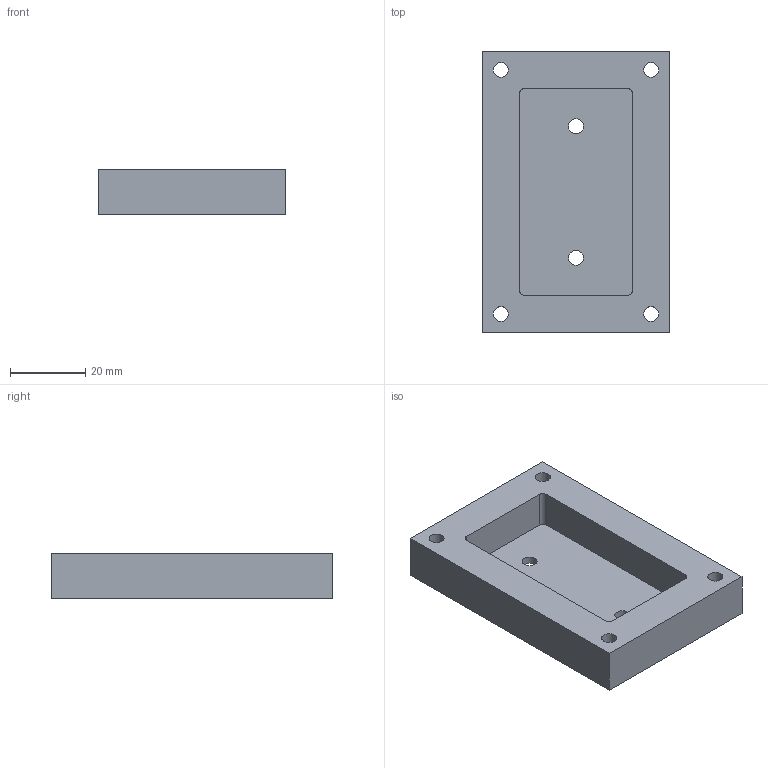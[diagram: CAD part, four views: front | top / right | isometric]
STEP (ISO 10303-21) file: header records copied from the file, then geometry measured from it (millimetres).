
FILE_DESCRIPTION(/* description */ (''),/* implementation_level */ '2;1');
FILE_NAME(/* name */ 'Model_R1.25.step',/* time_stamp */ '2023-08-02T10:07:54+09:00',/* author */ (''),/* organization */ (''),/* preprocessor_version */ 'ST-DEVELOPER v19.2',/* originating_system */ 'Autodesk Translation Framework v12.4.0.73',/* authorisation */ '');
FILE_SCHEMA (('AUTOMOTIVE_DESIGN { 1 0 10303 214 3 1 1 }'));
Length unit declared in the file: millimetre
Products named in the file (1): (未保存)
Bounding box: 50 x 75 x 12 mm (x, y, z)
Volume: 27860 mm3; surface area: 12681.2 mm2
Topology: 1 solids, 1 shells, 21 faces, 54 edges, 36 vertices
Faces by surface type: plane 11, cylinder 10
Full cylindrical faces by diameter (mm): 4 x6
Entity records: 705 total; most frequent: DIRECTION 118, CARTESIAN_POINT 112, ORIENTED_EDGE 108, EDGE_CURVE 54, AXIS2_PLACEMENT_3D 42, VERTEX_POINT 36, EDGE_LOOP 34, LINE 34
